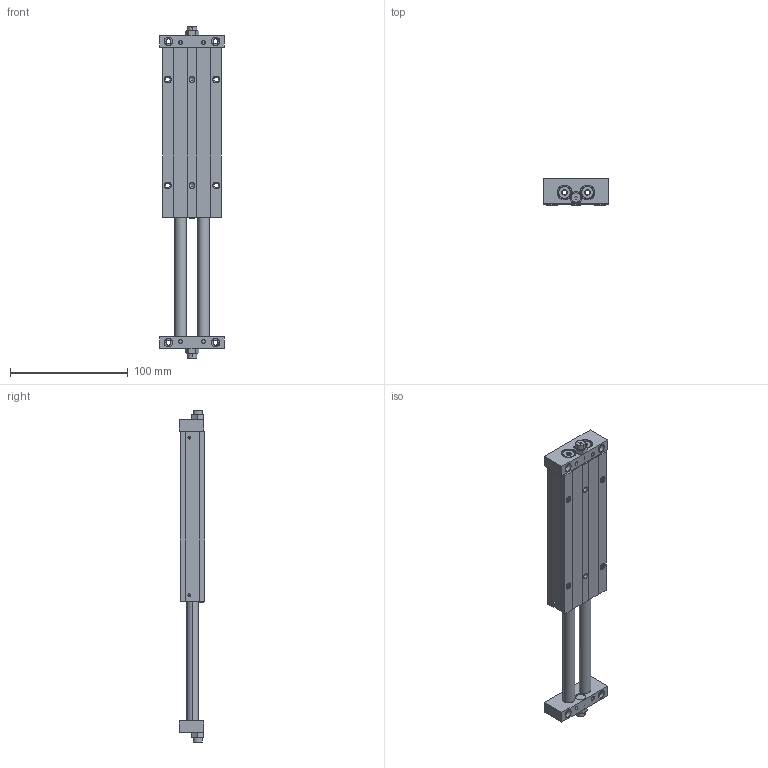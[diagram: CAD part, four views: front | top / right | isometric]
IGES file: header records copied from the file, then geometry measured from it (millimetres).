
Start section: SolidWorks IGES file using analytic representation for surfaces
Global section: file name: c:\CATALO3D\IGS\PS16.0100.IGS; native system: SolidWorks 2005 by SolidWorks Corporation; preprocessor: SolidWorks 2005 by SolidWorks Corporation; author: tania; date: 051006.085702; units: millimetre
Bounding box: 55 x 22 x 282 mm (x, y, z)
Surface area: 75514.1 mm2 (no closed solid volume)
Topology: 0 solids, 0 shells, 1142 faces, 10132 edges, 10120 vertices
Faces by surface type: revolution 920, bspline 222
